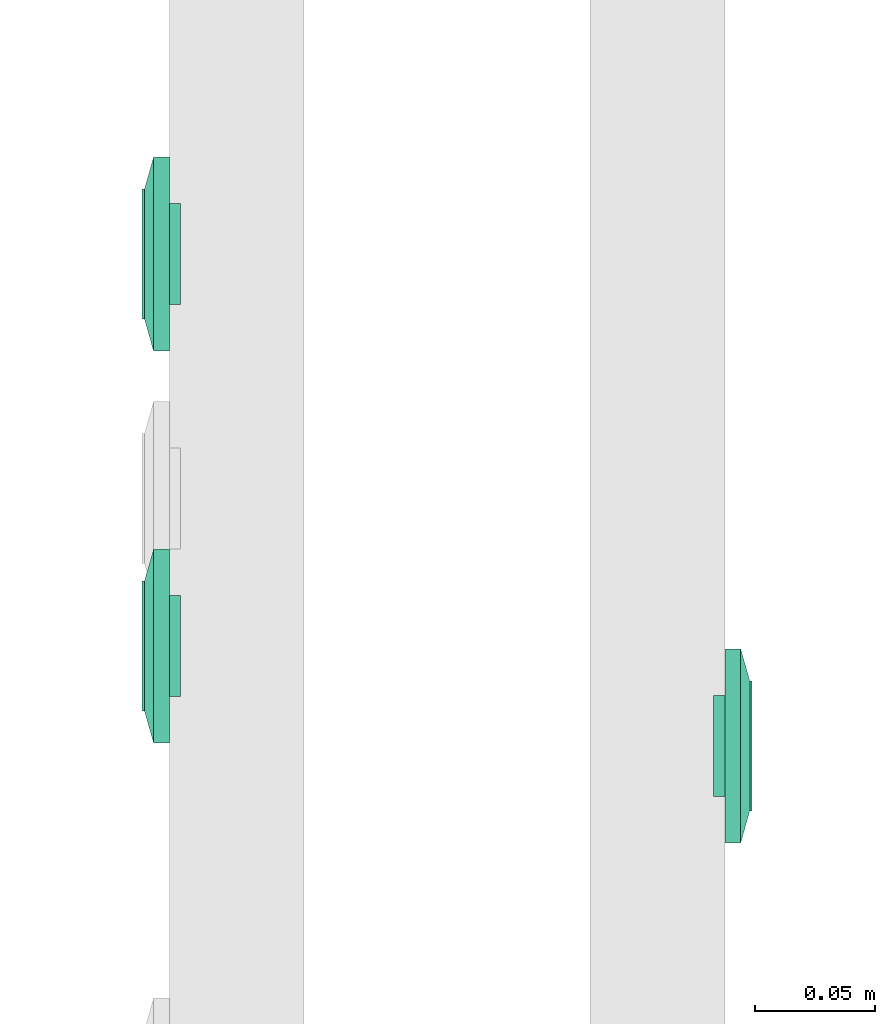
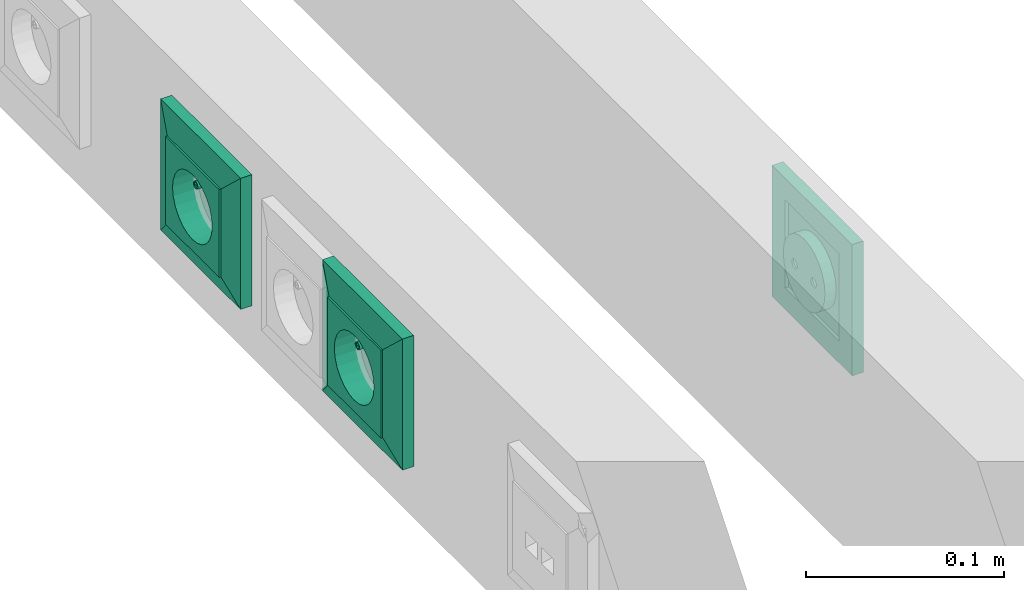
# One storey, part 90 of 166: 3 flow terminals.
"""IFC2X3 building model written with IfcOpenShell, lengths in metres."""

from ifc_helpers import new_model, entity, si_unit, converted_unit, derived_unit, direction, frame, origin, place, context, subcontext, project, spatial, face_set, surface_model, source, transform, mapped, type_object, type_shapes, element, save


model = new_model("IFC2X3")

# Units and contexts
model_context = context("Model", 3, precision=1e-05, world=origin(), true_north=direction((6.12303176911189e-17, 1.0)))
body_context = subcontext(model_context, "Body", "Model", "MODEL_VIEW")
ifc_project = project(units=[si_unit("LENGTHUNIT", "METRE"), si_unit("AREAUNIT", "SQUARE_METRE"), si_unit("VOLUMEUNIT", "CUBIC_METRE"), converted_unit("PLANEANGLEUNIT", "DEGREE", entity("IfcRatioMeasure", 0.0174532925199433), si_unit("PLANEANGLEUNIT", "RADIAN"), dimensions=[0, 0, 0, 0, 0, 0, 0]), si_unit("MASSUNIT", "GRAM", prefix="KILO"), derived_unit("MASSDENSITYUNIT", [(si_unit("MASSUNIT", "GRAM", prefix="KILO"), 1), (si_unit("LENGTHUNIT", "METRE"), -3)]), si_unit("TIMEUNIT", "SECOND"), si_unit("FREQUENCYUNIT", "HERTZ"), si_unit("THERMODYNAMICTEMPERATUREUNIT", "DEGREE_CELSIUS"), derived_unit("THERMALTRANSMITTANCEUNIT", [(si_unit("MASSUNIT", "GRAM", prefix="KILO"), 1), (si_unit("THERMODYNAMICTEMPERATUREUNIT", "KELVIN"), -1), (si_unit("TIMEUNIT", "SECOND"), -3)]), derived_unit("VOLUMETRICFLOWRATEUNIT", [(si_unit("LENGTHUNIT", "METRE"), 3), (si_unit("TIMEUNIT", "SECOND"), -1)]), si_unit("ELECTRICCURRENTUNIT", "AMPERE"), si_unit("ELECTRICVOLTAGEUNIT", "VOLT"), si_unit("POWERUNIT", "WATT"), si_unit("FORCEUNIT", "NEWTON"), si_unit("ILLUMINANCEUNIT", "LUX"), si_unit("LUMINOUSFLUXUNIT", "LUMEN"), si_unit("LUMINOUSINTENSITYUNIT", "CANDELA"), derived_unit("USERDEFINED", [(si_unit("MASSUNIT", "GRAM", prefix="KILO"), -1), (si_unit("LENGTHUNIT", "METRE"), -2), (si_unit("TIMEUNIT", "SECOND"), 3), (si_unit("LUMINOUSFLUXUNIT", "LUMEN"), 1)]), derived_unit("LINEARVELOCITYUNIT", [(si_unit("LENGTHUNIT", "METRE"), 1), (si_unit("TIMEUNIT", "SECOND"), -1)]), si_unit("PRESSUREUNIT", "PASCAL"), derived_unit("USERDEFINED", [(si_unit("LENGTHUNIT", "METRE"), -2), (si_unit("MASSUNIT", "GRAM", prefix="KILO"), 1), (si_unit("TIMEUNIT", "SECOND"), -2)])], contexts=[model_context])

# Site, building, storey
site_placement = place(None, origin())
site = spatial("IfcSite", under=ifc_project, at=site_placement, Name="Default", CompositionType="ELEMENT")
building_placement = place(site_placement, origin())
building = spatial("IfcBuilding", under=site, at=building_placement, CompositionType="ELEMENT")
storey_placement = place(building_placement, frame((0.0, 0.0, 4.27)))
storey = spatial("IfcBuildingStorey", under=building, at=storey_placement, Name="01", CompositionType="ELEMENT", Elevation=4.27)

# Flow terminals
light_fixture_type = type_object("IfcLightFixtureType", Name="PC IP20", PredefinedType="NOTDEFINED")
shared_shape = source(origin(), body_context, "Body", "SurfaceModel", [
    surface_model("IfcFaceBasedSurfaceModel", [(-0.00225000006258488, 0.0127499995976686, 0.00949633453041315), (0.0, 0.0104999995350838, 0.00949633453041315), (0.0, 0.0115376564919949, 0.0101656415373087), (0.0, 0.0139623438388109, 0.0101656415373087), (0.0, 0.0144589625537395, 0.00984531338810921), (0.0, 0.0121178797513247, 0.0102778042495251), (0.0, 0.0133821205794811, 0.0102778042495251), (0.0, 0.0127499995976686, 0.010399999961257), (0.0, 0.0149999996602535, 0.00949633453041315), (0.00225000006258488, 0.0127499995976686, 0.00949633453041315), (0.0, 0.0110410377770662, 0.00984531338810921), (0.0, 0.0127499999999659, 0.00949633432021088), (0.00225000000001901, 0.0127499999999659, 0.00949633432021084), (0.00217333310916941, 0.0121676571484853, 0.00949633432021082), (0.00194855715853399, 0.0116249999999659, 0.00949633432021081), (0.00159099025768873, 0.0111590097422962, 0.00949633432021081), (0.001125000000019, 0.010801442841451, 0.00949633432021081), (0.00058234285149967, 0.0105766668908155, 0.00949633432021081), (0.0, 0.0104999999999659, 0.00949633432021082), (-0.000582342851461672, 0.0105766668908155, 0.00949633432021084), (-0.001124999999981, 0.010801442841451, 0.00949633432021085), (-0.00159099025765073, 0.0111590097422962, 0.00949633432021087), (-0.00194855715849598, 0.011624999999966, 0.00949633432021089), (-0.0021733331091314, 0.0121676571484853, 0.00949633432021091), (-0.00224999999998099, 0.012749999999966, 0.00949633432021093), (-0.00217333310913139, 0.0133323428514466, 0.00949633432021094), (-0.00194855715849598, 0.013874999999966, 0.00949633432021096), (-0.00159099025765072, 0.0143409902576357, 0.00949633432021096), (-0.00112499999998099, 0.0146985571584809, 0.00949633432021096), (-0.00058234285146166, 0.0149233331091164, 0.00949633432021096), (0.0, 0.0149999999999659, 0.00949633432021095), (0.000582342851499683, 0.0149233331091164, 0.00949633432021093), (0.00112500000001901, 0.0146985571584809, 0.00949633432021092), (0.00159099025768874, 0.0143409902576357, 0.00949633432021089), (0.001948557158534, 0.0138749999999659, 0.00949633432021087), (0.00217333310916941, 0.0133323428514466, 0.00949633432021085), (0.00225000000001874, 0.0127499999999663, -0.00360000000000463), (0.00217333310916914, 0.0121676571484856, -0.00360000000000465), (0.00194855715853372, 0.0116249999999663, -0.00360000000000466), (0.00159099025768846, 0.0111590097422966, -0.00360000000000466), (0.00112500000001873, 0.0108014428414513, -0.00360000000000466), (0.000582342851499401, 0.0105766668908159, -0.00360000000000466), (0.0, 0.0104999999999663, -0.00360000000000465), (-0.000582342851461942, 0.0105766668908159, -0.00360000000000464), (-0.00112499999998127, 0.0108014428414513, -0.00360000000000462), (-0.001590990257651, 0.0111590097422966, -0.0036000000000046), (-0.00194855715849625, 0.0116249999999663, -0.00360000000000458), (-0.00217333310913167, 0.0121676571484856, -0.00360000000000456), (-0.00224999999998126, 0.0127499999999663, -0.00360000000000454), (-0.00217333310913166, 0.013332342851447, -0.00360000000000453), (-0.00194855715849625, 0.0138749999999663, -0.00360000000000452), (-0.00159099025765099, 0.014340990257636, -0.00360000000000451), (-0.00112499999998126, 0.0146985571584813, -0.00360000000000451), (-0.000582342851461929, 0.0149233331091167, -0.00360000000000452), (0.0, 0.0149999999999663, -0.00360000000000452), (0.000582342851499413, 0.0149233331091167, -0.00360000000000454), (0.00112500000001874, 0.0146985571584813, -0.00360000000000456), (0.00159099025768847, 0.014340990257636, -0.00360000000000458), (0.00194855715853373, 0.0138749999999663, -0.0036000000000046), (0.00217333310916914, 0.013332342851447, -0.00360000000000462), (0.0270000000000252, 0.026999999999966, 0.0113999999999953), (-0.0269999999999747, 0.026999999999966, 0.0113999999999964), (-0.0269999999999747, -0.0270000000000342, 0.0113999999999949), (0.0270000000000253, -0.0270000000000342, 0.0113999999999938), (-0.0199999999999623, 0.0, 0.0113999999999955), (-0.0193185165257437, -0.00517638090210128, 0.0113999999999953), (-0.0173205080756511, -0.0100000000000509, 0.0113999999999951), (-0.0141421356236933, -0.0141421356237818, 0.011399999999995), (-0.00999999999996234, -0.0173205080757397, 0.0113999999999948), (-0.00517638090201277, -0.0193185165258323, 0.0113999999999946), (0.0, -0.0200000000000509, 0.0113999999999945), (0.00517638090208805, -0.0193185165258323, 0.0113999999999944), (0.0100000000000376, -0.0173205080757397, 0.0113999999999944), (0.0141421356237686, -0.0141421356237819, 0.0113999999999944), (0.0173205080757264, -0.010000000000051, 0.0113999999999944), (0.0193185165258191, -0.00517638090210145, 0.0113999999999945), (0.0200000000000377, 0.0, 0.0113999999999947), (0.0193185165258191, 0.00517638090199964, 0.0113999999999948), (0.0173205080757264, 0.0099999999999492, 0.011399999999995), (0.0141421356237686, 0.0141421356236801, 0.0113999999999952), (0.0100000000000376, 0.0173205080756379, 0.0113999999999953), (0.00517638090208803, 0.0193185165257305, 0.0113999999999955), (0.0, 0.0199999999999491, 0.0113999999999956), (-0.00517638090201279, 0.0193185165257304, 0.0113999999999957), (-0.00999999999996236, 0.0173205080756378, 0.0113999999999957), (-0.0141421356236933, 0.01414213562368, 0.0113999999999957), (-0.0173205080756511, 0.00999999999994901, 0.0113999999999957), (-0.0193185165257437, 0.00517638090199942, 0.0113999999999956), (0.0270000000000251, 0.0269999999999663, 0.00199999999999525), (0.0270000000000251, -0.0270000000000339, 0.00199999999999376), (-0.0269999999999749, -0.0270000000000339, 0.00199999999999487), (-0.0269999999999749, 0.0269999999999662, 0.00199999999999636), (0.0210000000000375, 0.0, 0.00199999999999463), (0.0202844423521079, -0.00543519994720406, 0.00199999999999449), (0.0181865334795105, -0.0105000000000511, 0.0019999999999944), (0.0148492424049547, -0.0148492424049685, 0.00199999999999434), (0.0105000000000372, -0.0181865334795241, 0.00199999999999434), (0.0054351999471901, -0.0202844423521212, 0.00199999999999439), (0.0, -0.0210000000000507, 0.00199999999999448), (-0.00543519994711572, -0.020284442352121, 0.00199999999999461), (-0.0104999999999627, -0.0181865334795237, 0.00199999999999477), (-0.0148492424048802, -0.014849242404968, 0.00199999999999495), (-0.0181865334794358, -0.0105000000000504, 0.00199999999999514), (-0.020284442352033, -0.00543519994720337, 0.00199999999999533), (-0.0209999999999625, 0.0, 0.00199999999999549), (-0.0202844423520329, 0.0054351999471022, 0.00199999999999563), (-0.0181865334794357, 0.0104999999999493, 0.00199999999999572), (-0.01484924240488, 0.0148492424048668, 0.00199999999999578), (-0.0104999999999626, 0.0181865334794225, 0.00199999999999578), (-0.00543519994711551, 0.0202844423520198, 0.00199999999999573), (0.0, 0.0209999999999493, 0.00199999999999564), (0.00543519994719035, 0.0202844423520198, 0.00199999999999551), (0.0105000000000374, 0.0181865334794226, 0.00199999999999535), (0.0148492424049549, 0.0148492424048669, 0.00199999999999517), (0.0181865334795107, 0.0104999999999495, 0.00199999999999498), (0.0202844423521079, 0.00543519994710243, 0.00199999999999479), (0.0200000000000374, 0.0, -0.00360000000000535), (0.0193185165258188, -0.00517638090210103, -0.00360000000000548), (0.0173205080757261, -0.0100000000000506, -0.00360000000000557), (0.0141421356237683, -0.0141421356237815, -0.00360000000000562), (0.0100000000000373, -0.0173205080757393, -0.00360000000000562), (0.00517638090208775, -0.0193185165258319, -0.00360000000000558), (0.0, -0.0200000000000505, -0.00360000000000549), (-0.00517638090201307, -0.0193185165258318, -0.00360000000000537), (-0.00999999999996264, -0.0173205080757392, -0.00360000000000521), (-0.0141421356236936, -0.0141421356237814, -0.00360000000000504), (-0.0173205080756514, -0.0100000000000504, -0.00360000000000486), (-0.019318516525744, -0.00517638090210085, -0.00360000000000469), (-0.0199999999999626, 0.0, -0.00360000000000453), (-0.0193185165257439, 0.00517638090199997, -0.0036000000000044), (-0.0173205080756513, 0.00999999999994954, -0.00360000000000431), (-0.0141421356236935, 0.0141421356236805, -0.00360000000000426), (-0.00999999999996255, 0.0173205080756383, -0.00360000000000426), (-0.00517638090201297, 0.0193185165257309, -0.0036000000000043), (0.0, 0.0199999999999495, -0.00360000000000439), (0.00517638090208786, 0.0193185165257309, -0.00360000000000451), (0.0100000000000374, 0.0173205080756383, -0.00360000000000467), (0.0141421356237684, 0.0141421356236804, -0.00360000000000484), (0.0173205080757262, 0.0099999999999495, -0.00360000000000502), (0.0193185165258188, 0.00517638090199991, -0.00360000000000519), (-0.0123499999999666, 0.0, -0.00360000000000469), (-0.0122562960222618, -0.000711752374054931, -0.00360000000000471), (-0.0119815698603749, -0.00137500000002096, -0.00360000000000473), (-0.0115445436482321, -0.00194454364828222, -0.00360000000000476), (-0.0109749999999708, -0.00238156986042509, -0.00360000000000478), (-0.0103117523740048, -0.00265629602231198, -0.0036000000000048), (-0.00959999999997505, -0.00275000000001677, -0.00360000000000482), (-0.0088882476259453, -0.00265629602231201, -0.00360000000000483), (-0.00822499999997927, -0.00238156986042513, -0.00360000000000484), (-0.00765545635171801, -0.00194454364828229, -0.00360000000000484), (-0.00721843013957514, -0.00137500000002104, -0.00360000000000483), (-0.00694370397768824, -0.000711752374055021, -0.00360000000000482), (-0.00684999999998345, 0.0, -0.0036000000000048), (-0.00694370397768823, 0.000711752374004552, -0.00360000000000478), (-0.00721843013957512, 0.00137499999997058, -0.00360000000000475), (-0.00765545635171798, 0.00194454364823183, -0.00360000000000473), (-0.00822499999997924, 0.00238156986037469, -0.0036000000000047), (-0.00888824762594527, 0.00265629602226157, -0.00360000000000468), (-0.00959999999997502, 0.00274999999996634, -0.00360000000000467), (-0.0103117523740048, 0.00265629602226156, -0.00360000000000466), (-0.0109749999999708, 0.00238156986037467, -0.00360000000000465), (-0.011544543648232, 0.00194454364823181, -0.00360000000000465), (-0.0119815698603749, 0.00137499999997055, -0.00360000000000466), (-0.0122562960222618, 0.000711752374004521, -0.00360000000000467), (0.00685000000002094, 0.0, -0.00360000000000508), (0.0069437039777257, -0.00071175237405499, -0.0036000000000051), (0.00721843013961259, -0.00137500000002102, -0.00360000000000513), (0.00765545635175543, -0.00194454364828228, -0.00360000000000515), (0.00822500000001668, -0.00238156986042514, -0.00360000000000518), (0.00888824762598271, -0.00265629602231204, -0.0036000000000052), (0.00960000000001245, -0.00275000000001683, -0.00360000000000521), (0.0103117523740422, -0.00265629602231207, -0.00360000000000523), (0.0109750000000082, -0.00238156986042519, -0.00360000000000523), (0.0115445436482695, -0.00194454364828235, -0.00360000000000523), (0.0119815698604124, -0.0013750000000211, -0.00360000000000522), (0.0122562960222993, -0.00071175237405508, -0.00360000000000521), (0.012350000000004, 0.0, -0.00360000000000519), (0.0122562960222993, 0.000711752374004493, -0.00360000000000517), (0.0119815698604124, 0.00137499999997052, -0.00360000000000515), (0.0115445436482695, 0.00194454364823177, -0.00360000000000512), (0.0109750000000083, 0.00238156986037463, -0.0036000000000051), (0.0103117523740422, 0.00265629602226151, -0.00360000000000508), (0.00960000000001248, 0.00274999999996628, -0.00360000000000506), (0.00888824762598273, 0.0026562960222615, -0.00360000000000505), (0.0082250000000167, 0.00238156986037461, -0.00360000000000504), (0.00765545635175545, 0.00194454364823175, -0.00360000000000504), (0.0072184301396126, 0.00137499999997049, -0.00360000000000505), (0.00694370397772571, 0.000711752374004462, -0.00360000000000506), (0.0210000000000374, 0.0, -0.00460000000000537), (0.0202844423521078, -0.00543519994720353, -0.00460000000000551), (0.0181865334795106, -0.0105000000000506, -0.0046000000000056), (0.0148492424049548, -0.0148492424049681, -0.00460000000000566), (0.0105000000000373, -0.0181865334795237, -0.00460000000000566), (0.00543519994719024, -0.0202844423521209, -0.00460000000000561), (0.0, -0.0210000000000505, -0.00460000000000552), (-0.00543519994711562, -0.0202844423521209, -0.00460000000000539), (-0.0104999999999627, -0.0181865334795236, -0.00460000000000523), (-0.0148492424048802, -0.0148492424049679, -0.00460000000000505), (-0.0181865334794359, -0.0105000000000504, -0.00460000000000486), (-0.0202844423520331, -0.00543519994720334, -0.00460000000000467), (-0.0209999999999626, 0.0, -0.00460000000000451), (-0.020284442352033, 0.00543519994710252, -0.00460000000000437), (-0.0181865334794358, 0.0104999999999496, -0.00460000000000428), (-0.0148492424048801, 0.0148492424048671, -0.00460000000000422), (-0.0104999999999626, 0.0181865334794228, -0.00460000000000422), (-0.00543519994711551, 0.02028444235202, -0.00460000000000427), (0.0, 0.0209999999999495, -0.00460000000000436), (0.00543519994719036, 0.02028444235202, -0.00460000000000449), (0.0105000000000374, 0.0181865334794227, -0.00460000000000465), (0.0148492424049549, 0.014849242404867, -0.00460000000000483), (0.0181865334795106, 0.0104999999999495, -0.00460000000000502), (0.0202844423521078, 0.00543519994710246, -0.00460000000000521), (-0.00684999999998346, 0.0, -0.0046000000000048), (-0.00694370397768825, 0.000711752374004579, -0.00460000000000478), (-0.00721843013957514, 0.00137499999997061, -0.00460000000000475), (-0.007655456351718, 0.00194454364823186, -0.00460000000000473), (-0.00822499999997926, 0.00238156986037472, -0.0046000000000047), (-0.00888824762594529, 0.0026562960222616, -0.00460000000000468), (-0.00959999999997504, 0.00274999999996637, -0.00460000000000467), (-0.0103117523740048, 0.00265629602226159, -0.00460000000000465), (-0.0109749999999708, 0.0023815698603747, -0.00460000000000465), (-0.0115445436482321, 0.00194454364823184, -0.00460000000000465), (-0.0119815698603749, 0.00137499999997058, -0.00460000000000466), (-0.0122562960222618, 0.000711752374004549, -0.00460000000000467), (-0.0123499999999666, 0.0, -0.00460000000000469), (-0.0122562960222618, -0.000711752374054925, -0.00460000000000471), (-0.0119815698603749, -0.00137500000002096, -0.00460000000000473), (-0.0115445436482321, -0.00194454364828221, -0.00460000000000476), (-0.0109749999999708, -0.00238156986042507, -0.00460000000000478), (-0.0103117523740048, -0.00265629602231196, -0.0046000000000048), (-0.00959999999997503, -0.00275000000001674, -0.00460000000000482), (-0.00888824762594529, -0.00265629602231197, -0.00460000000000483), (-0.00822499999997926, -0.00238156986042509, -0.00460000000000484), (-0.007655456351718, -0.00194454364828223, -0.00460000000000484), (-0.00721843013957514, -0.00137500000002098, -0.00460000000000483), (-0.00694370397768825, -0.000711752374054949, -0.00460000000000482), (0.012350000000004, 0.0, -0.00460000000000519), (0.0122562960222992, 0.000711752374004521, -0.00460000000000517), (0.0119815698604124, 0.00137499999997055, -0.00460000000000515), (0.0115445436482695, 0.0019445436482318, -0.00460000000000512), (0.0109750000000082, 0.00238156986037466, -0.0046000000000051), (0.0103117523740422, 0.00265629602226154, -0.00460000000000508), (0.00960000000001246, 0.00274999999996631, -0.00460000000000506), (0.00888824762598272, 0.00265629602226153, -0.00460000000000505), (0.00822500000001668, 0.00238156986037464, -0.00460000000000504), (0.00765545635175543, 0.00194454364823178, -0.00460000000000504), (0.00721843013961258, 0.00137499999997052, -0.00460000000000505), (0.00694370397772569, 0.00071175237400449, -0.00460000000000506), (0.00685000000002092, 0.0, -0.00460000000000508), (0.00694370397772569, -0.000711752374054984, -0.0046000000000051), (0.00721843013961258, -0.00137500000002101, -0.00460000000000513), (0.00765545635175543, -0.00194454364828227, -0.00460000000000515), (0.00822500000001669, -0.00238156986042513, -0.00460000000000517), (0.00888824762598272, -0.00265629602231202, -0.0046000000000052), (0.00960000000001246, -0.0027500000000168, -0.00460000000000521), (0.0103117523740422, -0.00265629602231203, -0.00460000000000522), (0.0109750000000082, -0.00238156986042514, -0.00460000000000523), (0.0115445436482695, -0.00194454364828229, -0.00460000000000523), (0.0119815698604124, -0.00137500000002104, -0.00460000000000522), (0.0122562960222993, -0.000711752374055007, -0.00460000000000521), (0.040350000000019, 0.0403499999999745, 0.00659999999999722), (0.040350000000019, -0.0403500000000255, 0.00659999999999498), (-0.0403499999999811, -0.0403500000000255, 0.00659999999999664), (-0.0403499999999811, 0.0403499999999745, 0.00659999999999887), (0.027000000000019, 0.0269999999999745, 0.00659999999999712), (-0.0269999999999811, 0.0269999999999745, 0.00659999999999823), (-0.026999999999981, -0.0270000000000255, 0.00659999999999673), (0.027000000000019, -0.0270000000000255, 0.00659999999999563), (0.027000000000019, 0.0269999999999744, 0.0103999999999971), (-0.026999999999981, 0.0269999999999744, 0.0103999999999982), (-0.026999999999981, -0.0270000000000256, 0.0103999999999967), (0.027000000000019, -0.0270000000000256, 0.0103999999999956), (0.040350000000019, 0.0403499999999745, 0.00659999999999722), (0.040350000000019, -0.0403500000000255, 0.00659999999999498), (-0.0403499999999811, -0.0403500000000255, 0.00659999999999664), (-0.0403499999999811, 0.0403499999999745, 0.00659999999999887), (-0.0269999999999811, 0.0269999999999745, 0.00659999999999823), (-0.0269999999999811, -0.0270000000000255, 0.00659999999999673), (0.0270000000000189, -0.0270000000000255, 0.00659999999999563), (0.0270000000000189, 0.0269999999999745, 0.00659999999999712), (0.0403500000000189, 0.0403499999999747, 0.0), (0.0403500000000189, -0.0403500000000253, 0.0), (-0.0403499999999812, -0.0403500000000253, 0.0), (-0.0403499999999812, 0.0403499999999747, 0.0), (0.0270000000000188, 0.0269999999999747, 0.0), (-0.0269999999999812, 0.0269999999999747, 0.0), (-0.0269999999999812, -0.0270000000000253, 0.0), (0.0270000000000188, -0.0270000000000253, 0.0)], [face_set([[[0, 1, 2]], [[3, 4, 2, 5]], [[6, 3, 5, 7]], [[2, 4, 0]], [[4, 8, 0]], [[3, 9, 8]], [[1, 9, 10]], [[2, 3, 6, 7]], [[3, 10, 9]], [[2, 10, 3]], [[11, 1, 0, 8]], [[11, 8, 9, 1]]]), face_set([[[12, 13, 14, 15, 16, 17, 18, 19, 20, 21, 22, 23, 24, 25, 26, 27, 28, 29, 30, 31, 32, 33, 34, 35]], [[36, 37, 38, 39, 40, 41, 42, 43, 44, 45, 46, 47, 48, 49, 50, 51, 52, 53, 54, 55, 56, 57, 58, 59]], [[48, 47, 23, 24]], [[47, 46, 22, 23]], [[45, 44, 20, 21]], [[46, 45, 21, 22]], [[44, 43, 19, 20]], [[18, 19, 43, 42]], [[42, 41, 17, 18]], [[41, 40, 16, 17]], [[39, 38, 14, 15]], [[40, 39, 15, 16]], [[38, 37, 13, 14]], [[12, 13, 37, 36]], [[36, 59, 35, 12]], [[59, 58, 34, 35]], [[57, 56, 32, 33]], [[58, 57, 33, 34]], [[56, 55, 31, 32]], [[30, 31, 55, 54]], [[54, 53, 29, 30]], [[53, 52, 28, 29]], [[51, 50, 26, 27]], [[52, 51, 27, 28]], [[50, 49, 25, 26]], [[24, 25, 49, 48]]]), face_set([[[60, 61, 62, 63], [64, 65, 66, 67, 68, 69, 70, 71, 72, 73, 74, 75, 76, 77, 78, 79, 80, 81, 82, 83, 84, 85, 86, 87]], [[88, 89, 90, 91], [92, 93, 94, 95, 96, 97, 98, 99, 100, 101, 102, 103, 104, 105, 106, 107, 108, 109, 110, 111, 112, 113, 114, 115]], [[61, 60, 88, 91]], [[62, 61, 91, 90]], [[63, 62, 90, 89]], [[60, 63, 89, 88]], [[116, 117, 118, 119, 120, 121, 122, 123, 124, 125, 126, 127, 128, 129, 130, 131, 132, 133, 134, 135, 136, 137, 138, 139], [140, 141, 142, 143, 144, 145, 146, 147, 148, 149, 150, 151, 152, 153, 154, 155, 156, 157, 158, 159, 160, 161, 162, 163], [164, 165, 166, 167, 168, 169, 170, 171, 172, 173, 174, 175, 176, 177, 178, 179, 180, 181, 182, 183, 184, 185, 186, 187]], [[64, 128, 127, 65]], [[65, 127, 126, 66]], [[67, 125, 124, 68]], [[66, 126, 125, 67]], [[68, 124, 123, 69]], [[122, 70, 69, 123]], [[70, 122, 121, 71]], [[71, 121, 120, 72]], [[73, 119, 118, 74]], [[72, 120, 119, 73]], [[74, 118, 117, 75]], [[116, 76, 75, 117]], [[76, 116, 139, 77]], [[77, 139, 138, 78]], [[79, 137, 136, 80]], [[78, 138, 137, 79]], [[80, 136, 135, 81]], [[134, 82, 81, 135]], [[82, 134, 133, 83]], [[83, 133, 132, 84]], [[84, 132, 131, 85]], [[85, 131, 130, 86]], [[130, 129, 87, 86]], [[64, 87, 129, 128]], [[188, 189, 190, 191, 192, 193, 194, 195, 196, 197, 198, 199, 200, 201, 202, 203, 204, 205, 206, 207, 208, 209, 210, 211], [212, 213, 214, 215, 216, 217, 218, 219, 220, 221, 222, 223, 224, 225, 226, 227, 228, 229, 230, 231, 232, 233, 234, 235], [236, 237, 238, 239, 240, 241, 242, 243, 244, 245, 246, 247, 248, 249, 250, 251, 252, 253, 254, 255, 256, 257, 258, 259]], [[200, 199, 103, 104]], [[199, 198, 102, 103]], [[197, 196, 100, 101]], [[198, 197, 101, 102]], [[196, 195, 99, 100]], [[98, 99, 195, 194]], [[194, 193, 97, 98]], [[193, 192, 96, 97]], [[191, 190, 94, 95]], [[192, 191, 95, 96]], [[190, 189, 93, 94]], [[92, 93, 189, 188]], [[188, 211, 115, 92]], [[211, 210, 114, 115]], [[209, 208, 112, 113]], [[210, 209, 113, 114]], [[208, 207, 111, 112]], [[110, 111, 207, 206]], [[206, 205, 109, 110]], [[205, 204, 108, 109]], [[203, 202, 106, 107]], [[204, 203, 107, 108]], [[202, 201, 105, 106]], [[104, 105, 201, 200]], [[141, 225, 226, 142]], [[140, 224, 225, 141]], [[144, 228, 229, 145]], [[143, 227, 228, 144]], [[142, 226, 227, 143]], [[230, 146, 145, 229]], [[149, 233, 232, 148]], [[148, 232, 231, 147]], [[152, 212, 235, 151]], [[151, 235, 234, 150]], [[150, 234, 233, 149]], [[146, 230, 231, 147]], [[154, 214, 213, 153]], [[153, 213, 212, 152]], [[157, 217, 216, 156]], [[156, 216, 215, 155]], [[155, 215, 214, 154]], [[218, 158, 157, 217]], [[160, 220, 221, 161]], [[159, 219, 220, 160]], [[163, 223, 224, 140]], [[162, 222, 223, 163]], [[161, 221, 222, 162]], [[158, 218, 219, 159]], [[166, 250, 249, 165]], [[165, 249, 248, 164]], [[169, 253, 252, 168]], [[168, 252, 251, 167]], [[167, 251, 250, 166]], [[254, 170, 169, 253]], [[172, 256, 257, 173]], [[171, 255, 256, 172]], [[175, 259, 236, 176]], [[174, 258, 259, 175]], [[173, 257, 258, 174]], [[170, 254, 255, 171]], [[177, 237, 238, 178]], [[176, 236, 237, 177]], [[180, 240, 241, 181]], [[179, 239, 240, 180]], [[178, 238, 239, 179]], [[242, 182, 181, 241]], [[185, 245, 244, 184]], [[184, 244, 243, 183]], [[164, 248, 247, 187]], [[187, 247, 246, 186]], [[186, 246, 245, 185]], [[182, 242, 243, 183]]]), face_set([[[260, 261, 262, 263], [264, 265, 266, 267]], [[260, 268, 269, 263]], [[263, 269, 270, 262]], [[262, 270, 271, 261]], [[261, 271, 268, 260]], [[264, 265, 269, 268]], [[265, 266, 270, 269]], [[266, 267, 271, 270]], [[268, 271, 267, 264]]]), face_set([[[272, 273, 274, 275], [276, 277, 278, 279]], [[280, 281, 282, 283], [284, 285, 286, 287]], [[275, 272, 280, 283]], [[274, 275, 283, 282]], [[273, 274, 282, 281]], [[272, 273, 281, 280]], [[284, 285, 276, 279]], [[285, 286, 277, 276]], [[286, 287, 278, 277]], [[279, 278, 287, 284]]])]),
])
type_shapes(light_fixture_type, [shared_shape])
for number, where, z_axis, x_axis in (
    (1, (53.3787436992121, -191.12596015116, 0.438000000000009), (-1.0, 0.0, 0.0), (0.0, -1.0, 0.0)),
    (2, (53.3787436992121, -191.28896015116, 0.438000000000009), (-1.0, 0.0, 0.0), (0.0, -1.0, 0.0)),
    (3, (53.609743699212, -191.330483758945, 0.438000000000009), (1.0, 0.0, 0.0), (0.0, 1.0, 0.0)),
):
    element("IfcFlowTerminal", number, at=place(storey_placement, frame(where, z_axis=z_axis, x_axis=x_axis)), inside=storey, type_object=light_fixture_type, Name="INT Prise de courant:PC IP20", ObjectType="INT Prise de courant:PC IP20", context=body_context, shape_type="MappedRepresentation", body=[
        mapped(shared_shape, transform((0.0, 0.0, 0.0), scale=1.0)),
    ])

save(model, "model.ifc")
